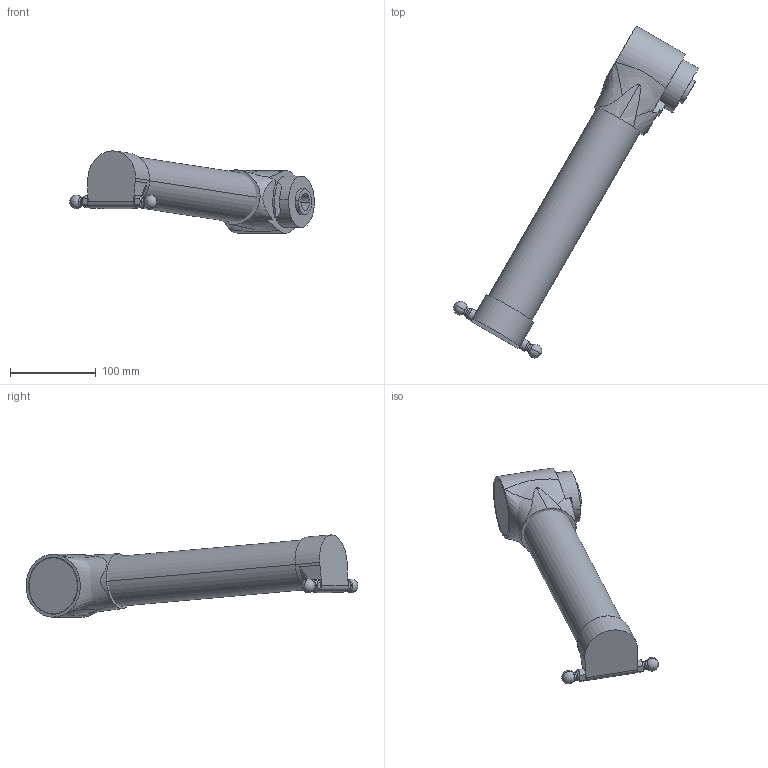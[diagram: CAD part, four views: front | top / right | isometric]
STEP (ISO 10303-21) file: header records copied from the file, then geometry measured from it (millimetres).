
FILE_DESCRIPTION (( 'STEP AP214' ), '1' );
FILE_NAME ('IRB360_X-1130-WDS-4D_rev03_UA2_CAD.STEP', '2023-12-04T10:21:00', ( '' ), ( '' ), 'SwSTEP 2.0', 'SolidWorks 2022', '' );
FILE_SCHEMA (( 'AUTOMOTIVE_DESIGN' ));
Length unit declared in the file: millimetre
Products named in the file (1): IRB360_X-1130-WDS-4D_rev03_UA2_CAD
Bounding box: 284.46 x 386.12 x 95.74 mm (x, y, z)
Volume: 1397325.2 mm3; surface area: 128598.5 mm2
Topology: 6 solids, 6 shells, 86 faces, 206 edges, 132 vertices
Faces by surface type: cylinder 27, plane 27, cone 13, torus 11, sphere 4, bspline 4
Entity records: 3903 total; most frequent: CARTESIAN_POINT 1689, DIRECTION 428, ORIENTED_EDGE 392, EDGE_CURVE 196, AXIS2_PLACEMENT_3D 183, VERTEX_POINT 126, CIRCLE 100, EDGE_LOOP 92
